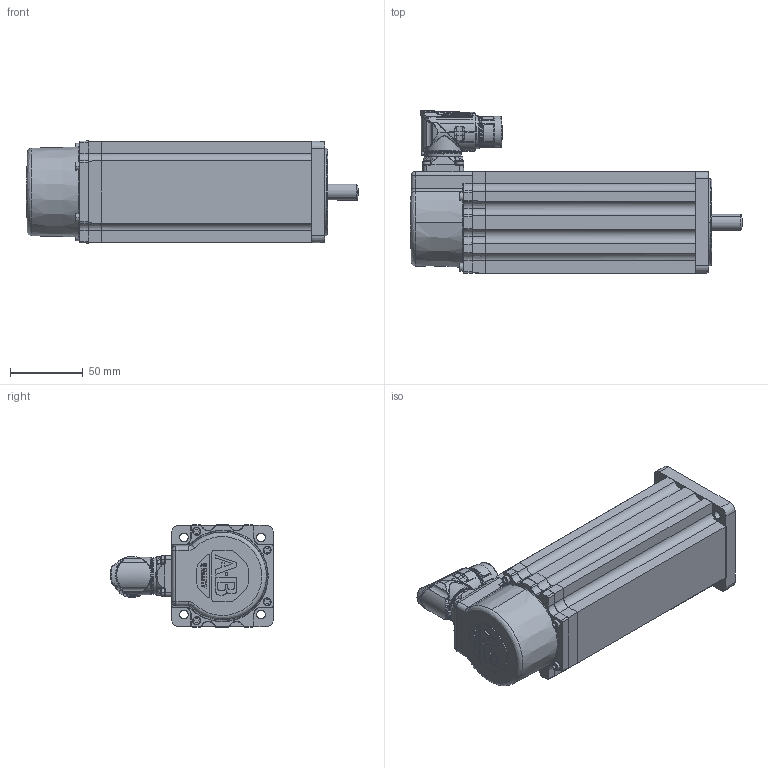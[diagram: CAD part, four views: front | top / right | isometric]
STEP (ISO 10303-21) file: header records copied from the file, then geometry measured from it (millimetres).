
FILE_DESCRIPTION (( 'STEP AP214' ), '1' );
FILE_NAME ('Rockwell Automation-$PARTNUMBER.STEP', '2014-07-25T13:44:40', ( 'Windows User' ), ( '' ), 'SwSTEP 2.0', 'SolidWorks 2014', '' );
FILE_SCHEMA (( 'AUTOMOTIVE_DESIGN' ));
Length unit declared in the file: inch
Products named in the file (29): Rockwell Automation-$PARTNUMBER_Rockwell Automation-VPF-x0753x-xJx4xx_ASM0004_ASM; Rockwell Automation-$PARTNUMBER_Rockwell Automation-VPF-x0753x-xJx4xx_PRT0008_1; Rockwell Automation-$PARTNUMBER_Rockwell Automation-VPF-x0753x-xJx4xx_PRT0005; Rockwell Automation-$PARTNUMBER_Rockwell Automation-VPF-x0753x-xJx4xx_PRT0007; Rockwell Automation-$PARTNUMBER_Rockwell Automation-VPF-x0753x-xJx4xx_PRT0008; Rockwell Automation-$PARTNUMBER_Rockwell Automation-VPF-x0753x-xJx4xx_PRT0006; Rockwell Automation-$PARTNUMBER_Rockwell Automation-VPF-x0753x-xJx4xx_FRONT_without key_1; Rockwell Automation-$PARTNUMBER_Rockwell Automation-VPF-x0753x-xJx4xx_vpf-075_0753-break; Rockwell Automation-$PARTNUMBER_Rockwell Automation-VPF-x0753x-xJx4xx_FRONT_1; Rockwell Automation-$PARTNUMBER_Rockwell Automation-VPF-x0753x-xJx4xx_FRONT_withkey_075_shaft_Shaft_J_3_4; Rockwell Automation-$PARTNUMBER_Rockwell Automation-VPF-x0753x-xJx4xx_tab; Rockwell Automation-$PARTNUMBER_Rockwell Automation-VPF-x0753x-xJx4xx_0011-G402_ANY_2; Rockwell Automation-$PARTNUMBER_Rockwell Automation-VPF-x0753x-xJx4xx_10000169222_ANY_1; Rockwell Automation-$PARTNUMBER_Rockwell Automation-VPF-x0753x-xJx4xx_REAR_ASM_ANY_ASM; Rockwell Automation-$PARTNUMBER_Rockwell Automation-VPF-x0753x-xJx4xx_10000206536_ASM_ANY_ASM_1; Rockwell Automation-$PARTNUMBER_Rockwell Automation-VPF-x0753x-xJx4xx_PRT0002; Rockwell Automation-$PARTNUMBER_Rockwell Automation-VPF-x0753x-xJx4xx_10000206535_AF0_ANY_1; Rockwell Automation-$PARTNUMBER_Rockwell Automation-VPF-x0753x-xJx4xx_PRT0001; Rockwell Automation-$PARTNUMBER_Rockwell Automation-VPF-x0753x-xJx4xx_10000210273_AF2_ANY_1; Rockwell Automation-$PARTNUMBER_Rockwell Automation-VPF-x0753x-xJx4xx_10000220495_ASM_1_ANY_ASM; Rockwell Automation-$PARTNUMBER_Rockwell Automation-VPF-x0753x-xJx4xx_10000213398_ANY_1; Rockwell Automation-$PARTNUMBER_Rockwell Automation-VPF-x0753x-xJx4xx_10000206533_AF0_ANY; Rockwell Automation-$PARTNUMBER_Rockwell Automation-VPF-x0753x-xJx4xx_vpl-middle-075_0753-break; Rockwell Automation-$PARTNUMBER_Rockwell Automation-VPF-x0753x-xJx4xx_10000220495_ASM_ANY; Rockwell Automation-$PARTNUMBER_Rockwell Automation-VPF-x0753x-xJx4xx_10000205606_AF31_ANY; Rockwell Automation-$PARTNUMBER; Rockwell Automation-$PARTNUMBER_Rockwell Automation-VPF-x0753x-xJx4xx_10000218021_ANY; Rockwell Automation-$PARTNUMBER_Rockwell Automation-VPF-x0753x-xJx4xx_91290A115_ANY; Rockwell Automation-$PARTNUMBER_Rockwell Automation-VPF-x0753x-xJx4xx_ASM0003_ASM
Assembly tree (41 placements, depth 6):
  Rockwell Automation-$PARTNUMBER_Rockwell Automation-VPF-x0753x-xJx4xx_tab
  Rockwell Automation-$PARTNUMBER
    Rockwell Automation-$PARTNUMBER_Rockwell Automation-VPF-x0753x-xJx4xx_vpf-075_0753-break
      Rockwell Automation-$PARTNUMBER_Rockwell Automation-VPF-x0753x-xJx4xx_vpl-middle-075_0753-break
      Rockwell Automation-$PARTNUMBER_Rockwell Automation-VPF-x0753x-xJx4xx_FRONT_without key_1
        Rockwell Automation-$PARTNUMBER_Rockwell Automation-VPF-x0753x-xJx4xx_FRONT_1
          Rockwell Automation-$PARTNUMBER_Rockwell Automation-VPF-x0753x-xJx4xx_10000213398_ANY_1
          Rockwell Automation-$PARTNUMBER_Rockwell Automation-VPF-x0753x-xJx4xx_10000206536_ASM_ANY_ASM_1
            Rockwell Automation-$PARTNUMBER_Rockwell Automation-VPF-x0753x-xJx4xx_10000210273_AF2_ANY_1
            Rockwell Automation-$PARTNUMBER_Rockwell Automation-VPF-x0753x-xJx4xx_10000206535_AF0_ANY_1
          Rockwell Automation-$PARTNUMBER_Rockwell Automation-VPF-x0753x-xJx4xx_10000169222_ANY_1  x4
      Rockwell Automation-$PARTNUMBER_Rockwell Automation-VPF-x0753x-xJx4xx_REAR_ASM_ANY_ASM
        Rockwell Automation-$PARTNUMBER_Rockwell Automation-VPF-x0753x-xJx4xx_ASM0003_ASM
          Rockwell Automation-$PARTNUMBER_Rockwell Automation-VPF-x0753x-xJx4xx_PRT0006
          Rockwell Automation-$PARTNUMBER_Rockwell Automation-VPF-x0753x-xJx4xx_ASM0004_ASM
            Rockwell Automation-$PARTNUMBER_Rockwell Automation-VPF-x0753x-xJx4xx_PRT0008
            Rockwell Automation-$PARTNUMBER_Rockwell Automation-VPF-x0753x-xJx4xx_PRT0007
            Rockwell Automation-$PARTNUMBER_Rockwell Automation-VPF-x0753x-xJx4xx_PRT0005  x4
            Rockwell Automation-$PARTNUMBER_Rockwell Automation-VPF-x0753x-xJx4xx_PRT0008_1
        Rockwell Automation-$PARTNUMBER_Rockwell Automation-VPF-x0753x-xJx4xx_91290A115_ANY  x4
        Rockwell Automation-$PARTNUMBER_Rockwell Automation-VPF-x0753x-xJx4xx_10000218021_ANY  x2
        Rockwell Automation-$PARTNUMBER_Rockwell Automation-VPF-x0753x-xJx4xx_10000220495_ASM_1_ANY_ASM
          Rockwell Automation-$PARTNUMBER_Rockwell Automation-VPF-x0753x-xJx4xx_10000205606_AF31_ANY
          Rockwell Automation-$PARTNUMBER_Rockwell Automation-VPF-x0753x-xJx4xx_10000220495_ASM_ANY  x2
          Rockwell Automation-$PARTNUMBER_Rockwell Automation-VPF-x0753x-xJx4xx_10000206533_AF0_ANY
        Rockwell Automation-$PARTNUMBER_Rockwell Automation-VPF-x0753x-xJx4xx_PRT0001  x4
        Rockwell Automation-$PARTNUMBER_Rockwell Automation-VPF-x0753x-xJx4xx_PRT0002
      Rockwell Automation-$PARTNUMBER_Rockwell Automation-VPF-x0753x-xJx4xx_0011-G402_ANY_2
      Rockwell Automation-$PARTNUMBER_Rockwell Automation-VPF-x0753x-xJx4xx_FRONT_withkey_075_shaft_Shaft_J_3_4
Bounding box: 228.5 x 112.19 x 70.31 mm (x, y, z)
Volume: 315897.9 mm3; surface area: 190233.4 mm2
Topology: 28 solids, 44 shells, 2961 faces, 8040 edges, 5182 vertices
Faces by surface type: cylinder 994, plane 912, bspline 631, cone 416, torus 8
Entity records: 141241 total; most frequent: CARTESIAN_POINT 71909, ORIENTED_EDGE 12751, DIRECTION 8150, EDGE_CURVE 6389, VERTEX_POINT 4196, AXIS2_PLACEMENT_3D 3049, B_SPLINE_CURVE_WITH_KNOTS 2966, EDGE_LOOP 2502
